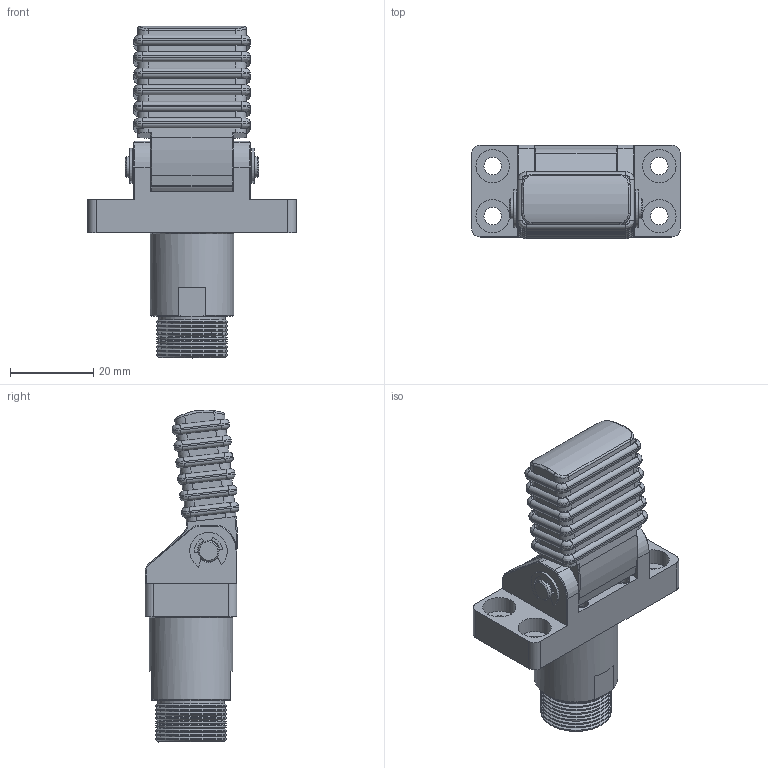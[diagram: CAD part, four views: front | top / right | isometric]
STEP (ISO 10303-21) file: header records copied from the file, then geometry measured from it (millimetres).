
FILE_DESCRIPTION(/* description */ (''),/* implementation_level */ '2;1');
FILE_NAME(/* name */ '_model342.stp',/* time_stamp */ '2023-03-09T13:27:42+08:00',/* author */ (''),/* organization */ (''),/* preprocessor_version */ 'ST-DEVELOPER v16',/* originating_system */ 'SIEMENS PLM Software NX 10.0',/* authorisation */ '');
FILE_SCHEMA (('AUTOMOTIVE_DESIGN { 1 0 10303 214 3 1 1 1 }'));
Length unit declared in the file: millimetre
Products named in the file (1): _model342
Bounding box: 50 x 22.47 x 79.64 mm (x, y, z)
Volume: 32448 mm3; surface area: 15003.7 mm2
Topology: 5 solids, 5 shells, 453 faces, 1133 edges, 704 vertices
Faces by surface type: plane 183, cylinder 169, cone 47, bspline 28, torus 26
Full cylindrical faces by diameter (mm): 1 x1, 3 x1, 3.1 x2, 3.9 x2, 4.2 x5, 5 x6, 8 x4, 15.75 x1, 16 x3, 17 x9, 20 x1
Entity records: 16515 total; most frequent: CARTESIAN_POINT 3091, DIRECTION 2209, ORIENTED_EDGE 2084, EDGE_CURVE 1042, AXIS2_PLACEMENT_3D 851, VERTEX_POINT 677, EDGE_LOOP 545, LINE 507
